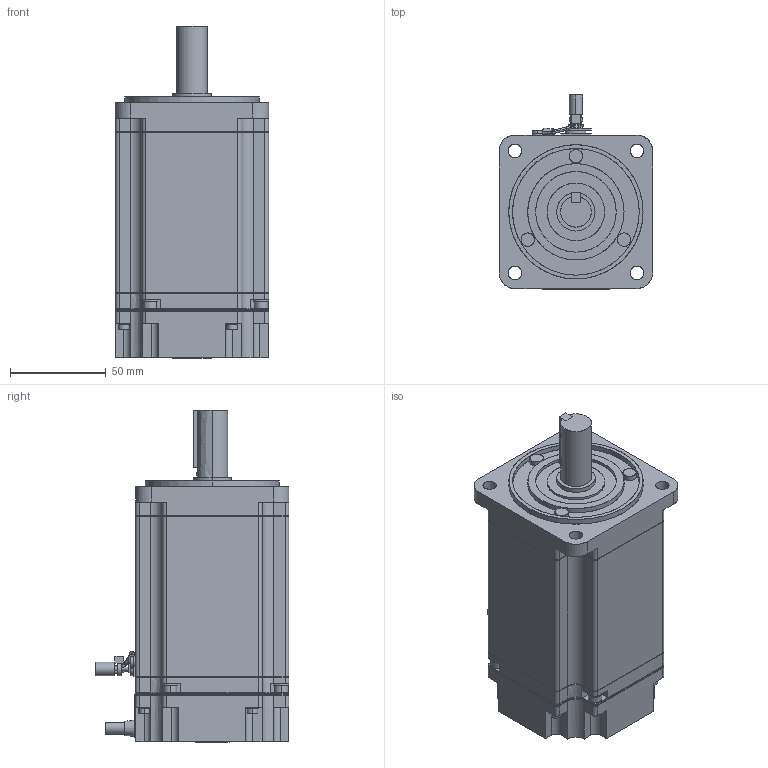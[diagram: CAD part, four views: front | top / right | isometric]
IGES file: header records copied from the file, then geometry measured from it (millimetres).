
Start section: SolidWorks IGES file using analytic representation for surfaces
Global section: file name: D:\YASKAWA\sjme_08amb41.IGS; native system: SolidWorks 2006 by SolidWorks Corporation; preprocessor: SolidWorks 2006 by SolidWorks Corporation; author: yamanouchi; date: 111109.083825; units: millimetre
Bounding box: 80.1 x 101.1 x 173.1 mm (x, y, z)
Surface area: 61022.8 mm2 (no closed solid volume)
Topology: 0 solids, 0 shells, 478 faces, 7402 edges, 7402 vertices
Faces by surface type: bspline 280, revolution 198
